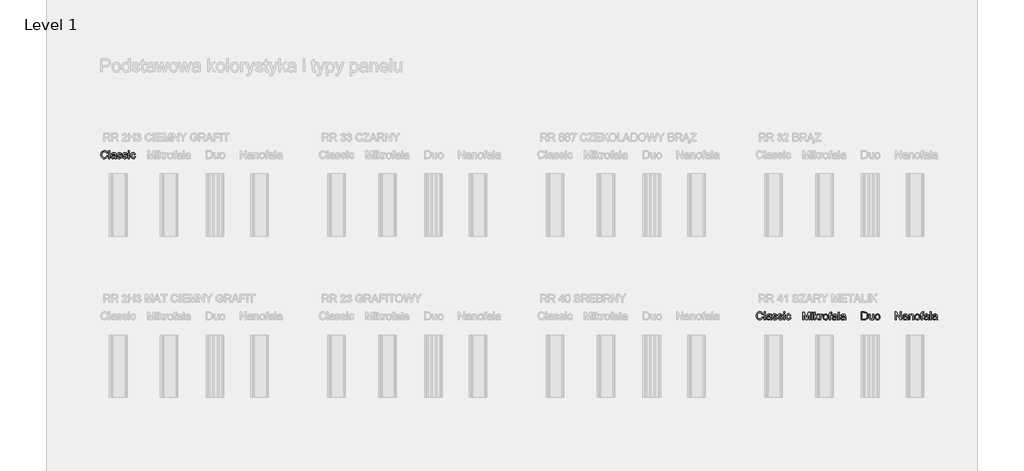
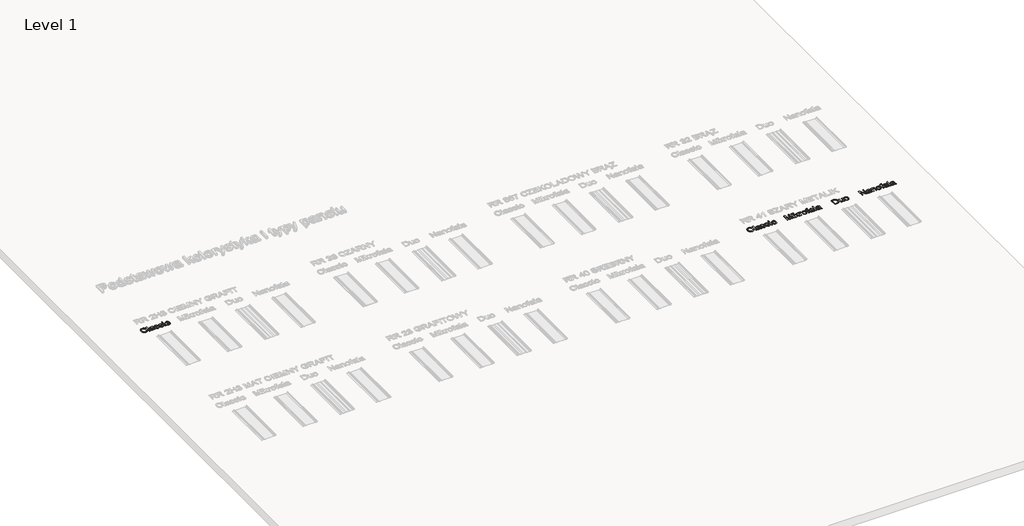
# One storey, part 18 of 24: 5 proxies.
"""IFC4 building model written with IfcOpenShell, lengths in millimetres."""

from ifc_helpers import new_model, si_unit, frame, origin, place, context, project, spatial, polyline, outline, extrude, element, save

model = new_model("IFC4")

# Units and contexts
model_context = context("Model", 3, world=origin())
ifc_project = project(units=[si_unit("LENGTHUNIT", "METRE", prefix="MILLI")], contexts=[model_context])

# Site, building, storey
site = spatial("IfcSite", under=ifc_project)
building = spatial("IfcBuilding", under=site)
storey = spatial("IfcBuildingStorey", under=building, Name="Level 1", Elevation=0.0)

# Proxies
placement = place(None, origin())
element("IfcBuildingElementProxy", 1, Name="150", ObjectType="150", at=placement, inside=storey, context=model_context, shape_type="SweptSolid", body=[
    extrude(outline(polyline([(-8679.0085992, 1182.8181359), (-8660.1730411, 1177.9620936), (-8668.8642532, 1156.013334), (-8682.5034782, 1139.9782776), (-8700.4193314, 1130.1696239), (-8721.9404281, 1126.9000726), (-8743.7880201, 1129.3740791), (-8761.1382547, 1136.7960983), (-8774.4371888, 1148.908613), (-8784.1308794, 1165.4541057), (-8790.049181, 1184.9058662), (-8792.0219482, 1205.7371842), (-8789.7916636, 1227.7089364), (-8783.1008098, 1246.6824503), (-8772.2988747, 1262.0553191), (-8757.7353462, 1273.2251362), (-8740.4632865, 1280.0263546), (-8721.5357579, 1282.2934274), (-8700.8837824, 1279.3595685), (-8683.8094593, 1270.5579918), (-8670.8462175, 1256.4313231), (-8662.5274859, 1237.5221886), (-8681.363044, 1233.0340282), (-8687.8929494, 1246.7698222), (-8696.8140878, 1256.1921998), (-8708.2368238, 1261.6414519), (-8722.2715219, 1263.4578692), (-8738.4491326, 1261.4437153), (-8751.7388697, 1255.4012536), (-8761.8234349, 1245.9650804), (-8768.38553, 1233.7697922), (-8773.18639, 1205.7739724), (-8771.7654458, 1188.373154), (-8767.5026132, 1173.3267804), (-8760.2369438, 1161.2096672), (-8749.8074892, 1152.59663), (-8737.3040999, 1147.4508806), (-8723.8166263, 1145.7356308), (-8708.0942695, 1148.0716815), (-8694.9930719, 1155.0798335), (-8685.1016448, 1166.6865104), (-8679.0085992, 1182.8181359)])), frame((0.0, 0.0, 600.0), z_axis=(0.0, 0.0, 1.0), x_axis=(1.0, 0.0, 0.0)), (0.0, 0.0, 1.0), 10.0),
    extrude(outline(polyline([(-8636.6285934, 1129.2545174), (-8636.6285934, 1279.9389826), (-8617.7930352, 1279.9389826), (-8617.7930352, 1129.2545174), (-8636.6285934, 1129.2545174)])), frame((0.0, 0.0, 600.0), z_axis=(0.0, 0.0, 1.0), x_axis=(1.0, 0.0, 0.0)), (0.0, 0.0, 1.0), 10.0),
    extrude(outline(polyline([(-8518.9063549, 1143.381186), (-8537.171696, 1130.6156808), (-8557.3500234, 1126.9000726), (-8573.0907743, 1129.1349558), (-8584.7020498, 1135.8396051), (-8591.8619531, 1146.0207393), (-8594.2485875, 1158.685077), (-8590.643344, 1173.5842978), (-8581.1703826, 1184.4000285), (-8567.9818131, 1190.580446), (-8551.6846407, 1193.4131374), (-8519.0167195, 1199.8878605), (-8518.9063549, 1204.0817152), (-8520.203139, 1212.4878188), (-8524.0934911, 1217.9876546), (-8532.7939003, 1222.0711448), (-8544.915612, 1223.4323082), (-8563.9718993, 1219.8086705), (-8573.0585846, 1206.9511948), (-8591.8941428, 1209.3056396), (-8583.7455566, 1227.6997393), (-8567.3380196, 1238.4786818), (-8542.4875908, 1242.2678663), (-8519.660513, 1238.9201402), (-8506.7662491, 1230.5140366), (-8500.9905018, 1217.7301372), (-8500.0707968, 1201.2490239), (-8500.0707968, 1177.8149408), (-8499.1143036, 1145.0918373), (-8495.3619072, 1129.2545174), (-8514.1974654, 1129.2545174), (-8518.9063549, 1143.381186)]), holes=[polyline([(-8518.9063549, 1181.0523023), (-8549.2934077, 1175.276555), (-8565.4986096, 1172.2231344), (-8572.8378554, 1167.2567275), (-8575.4130294, 1160.0094522), (-8569.802829, 1149.8191209), (-8553.3401097, 1145.7356308), (-8534.2838223, 1150.2421852), (-8521.9965637, 1161.1498864), (-8519.0167195, 1175.7180134), (-8518.9063549, 1181.0523023)])]), frame((0.0, 0.0, 600.0), z_axis=(0.0, 0.0, 1.0), x_axis=(1.0, 0.0, 0.0)), (0.0, 0.0, 1.0), 10.0),
    extrude(outline(polyline([(-8481.2352386, 1162.2167442), (-8462.3996805, 1164.5711889), (-8459.4290334, 1156.5145732), (-8453.6808772, 1150.5916731), (-8433.7048849, 1145.7356308), (-8414.5014447, 1150.1870029), (-8408.2474508, 1160.6348516), (-8409.8201463, 1165.4357116), (-8414.5382329, 1169.0961375), (-8433.9256141, 1174.4672146), (-8462.2893159, 1183.6826586), (-8474.668545, 1194.4432069), (-8478.8807939, 1209.6367334), (-8475.4962795, 1223.6714315), (-8466.2624414, 1234.3951916), (-8454.2878825, 1239.9686039), (-8438.0826806, 1242.2678663), (-8415.1636323, 1238.5706523), (-8400.5955053, 1228.564262), (-8394.1207822, 1211.6600843), (-8412.9563403, 1209.3056396), (-8420.0380687, 1219.6983059), (-8436.6111526, 1223.4323082), (-8454.6373704, 1219.8638528), (-8460.0452357, 1211.5497197), (-8457.8011555, 1206.068278), (-8450.7746094, 1201.9112115), (-8434.5510134, 1197.9012977), (-8406.9046815, 1189.0353416), (-8394.0655999, 1178.9921632), (-8389.4118926, 1162.6214144), (-8394.8749403, 1144.5951966), (-8410.6386838, 1131.5169917), (-8433.9624023, 1126.9000726), (-8452.9543103, 1129.1257587), (-8466.8142644, 1135.8028169), (-8476.0664966, 1146.8576709), (-8481.2352386, 1162.2167442)])), frame((0.0, 0.0, 600.0), z_axis=(0.0, 0.0, 1.0), x_axis=(1.0, 0.0, 0.0)), (0.0, 0.0, 1.0), 10.0),
    extrude(outline(polyline([(-8375.285224, 1162.2167442), (-8356.4496659, 1164.5711889), (-8353.4790188, 1156.5145732), (-8347.7308626, 1150.5916731), (-8327.7548702, 1145.7356308), (-8308.5514301, 1150.1870029), (-8302.2974362, 1160.6348516), (-8303.8701317, 1165.4357116), (-8308.5882183, 1169.0961375), (-8327.9755994, 1174.4672146), (-8356.3393013, 1183.6826586), (-8368.7185304, 1194.4432069), (-8372.9307793, 1209.6367334), (-8369.5462649, 1223.6714315), (-8360.3124268, 1234.3951916), (-8348.3378679, 1239.9686039), (-8332.132666, 1242.2678663), (-8309.2136177, 1238.5706523), (-8294.6454907, 1228.564262), (-8288.1707676, 1211.6600843), (-8307.0063257, 1209.3056396), (-8314.0880541, 1219.6983059), (-8330.661138, 1223.4323082), (-8348.6873558, 1219.8638528), (-8354.0952211, 1211.5497197), (-8351.8511409, 1206.068278), (-8344.8245948, 1201.9112115), (-8328.6009988, 1197.9012977), (-8300.9546669, 1189.0353416), (-8288.1155853, 1178.9921632), (-8283.461878, 1162.6214144), (-8288.9249257, 1144.5951966), (-8304.6886691, 1131.5169917), (-8328.0123876, 1126.9000726), (-8347.0042956, 1129.1257587), (-8360.8642498, 1135.8028169), (-8370.116482, 1146.8576709), (-8375.285224, 1162.2167442)])), frame((0.0, 0.0, 600.0), z_axis=(0.0, 0.0, 1.0), x_axis=(1.0, 0.0, 0.0)), (0.0, 0.0, 1.0), 10.0),
    extrude(outline(polyline([(-8262.2718751, 1261.1034245), (-8262.2718751, 1279.9389826), (-8243.4363169, 1279.9389826), (-8243.4363169, 1261.1034245), (-8262.2718751, 1261.1034245)])), frame((0.0, 0.0, 600.0), z_axis=(0.0, 0.0, 1.0), x_axis=(1.0, 0.0, 0.0)), (0.0, 0.0, 1.0), 10.0),
    extrude(outline(polyline([(-8262.2718751, 1129.2545174), (-8262.2718751, 1239.9134216), (-8243.4363169, 1239.9134216), (-8243.4363169, 1129.2545174), (-8262.2718751, 1129.2545174)])), frame((0.0, 0.0, 600.0), z_axis=(0.0, 0.0, 1.0), x_axis=(1.0, 0.0, 0.0)), (0.0, 0.0, 1.0), 10.0),
    extrude(outline(polyline([(-8144.5496366, 1169.2800785), (-8125.7140785, 1166.9256337), (-8130.965594, 1150.1732074), (-8140.8340285, 1137.5134682), (-8154.39048, 1129.5534215), (-8170.7060465, 1126.9000726), (-8190.7418197, 1130.6018852), (-8206.4089941, 1141.7073229), (-8216.5211505, 1159.7289422), (-8219.8918693, 1184.1792993), (-8218.452531, 1200.9409227), (-8214.134516, 1215.467663), (-8206.8688466, 1227.1985001), (-8196.5865449, 1235.572414), (-8184.2854906, 1240.5940032), (-8170.9635639, 1242.2678663), (-8155.0480691, 1239.9686039), (-8142.3239506, 1233.0708164), (-8133.1958786, 1221.9423861), (-8128.0685233, 1206.9511948), (-8146.9040814, 1204.59675), (-8155.6412788, 1218.7050245), (-8170.8164111, 1223.4323082), (-8182.9887066, 1221.1054546), (-8192.6502075, 1214.1248937), (-8198.9547852, 1202.1135465), (-8201.0563111, 1184.6943341), (-8199.0007705, 1167.0405968), (-8192.8341485, 1154.987863), (-8183.3473916, 1148.0486888), (-8171.3314459, 1145.7356308), (-8161.5779745, 1147.1795676), (-8153.5811396, 1151.5113781), (-8147.7640056, 1158.8414269), (-8144.5496366, 1169.2800785)])), frame((0.0, 0.0, 600.0), z_axis=(0.0, 0.0, 1.0), x_axis=(1.0, 0.0, 0.0)), (0.0, 0.0, 1.0), 10.0),
])
element("IfcBuildingElementProxy", 2, Name="150", ObjectType="150", at=placement, inside=storey, context=model_context, shape_type="SweptSolid", body=[
    extrude(outline(polyline([(3920.9914008, -1917.1818641), (3939.8269589, -1922.0379064), (3931.1357468, -1943.986666), (3917.4965218, -1960.0217224), (3899.5806686, -1969.8303761), (3878.0595719, -1973.0999274), (3856.2119799, -1970.6259209), (3838.8617453, -1963.2039017), (3825.5628112, -1951.091387), (3815.8691206, -1934.5458943), (3809.950819, -1915.0941338), (3807.9780518, -1894.2628158), (3810.2083364, -1872.2910636), (3816.8991902, -1853.3175497), (3827.7011253, -1837.9446809), (3842.2646538, -1826.7748638), (3859.5367135, -1819.9736454), (3878.4642421, -1817.7065726), (3899.1162176, -1820.6404315), (3916.1905407, -1829.4420082), (3929.1537825, -1843.5686769), (3937.4725141, -1862.4778114), (3918.636956, -1866.9659718), (3912.1070506, -1853.2301778), (3903.1859122, -1843.8078002), (3891.7631762, -1838.3585481), (3877.7284781, -1836.5421308), (3861.5508674, -1838.5562847), (3848.2611303, -1844.5987464), (3838.1765651, -1854.0349196), (3831.61447, -1866.2302078), (3826.81361, -1894.2260276), (3828.2345542, -1911.626846), (3832.4973868, -1926.6732196), (3839.7630562, -1938.7903328), (3850.1925108, -1947.40337), (3862.6959001, -1952.5491194), (3876.1833737, -1954.2643692), (3891.9057305, -1951.9283185), (3905.0069281, -1944.9201665), (3914.8983552, -1933.3134896), (3920.9914008, -1917.1818641)])), frame((0.0, 0.0, 600.0), z_axis=(0.0, 0.0, 1.0), x_axis=(1.0, 0.0, 0.0)), (0.0, 0.0, 1.0), 10.0),
    extrude(outline(polyline([(3963.3714066, -1970.7454826), (3963.3714066, -1820.0610174), (3982.2069648, -1820.0610174), (3982.2069648, -1970.7454826), (3963.3714066, -1970.7454826)])), frame((0.0, 0.0, 600.0), z_axis=(0.0, 0.0, 1.0), x_axis=(1.0, 0.0, 0.0)), (0.0, 0.0, 1.0), 10.0),
    extrude(outline(polyline([(4081.0936451, -1956.618814), (4062.828304, -1969.3843192), (4042.6499766, -1973.0999274), (4026.9092257, -1970.8650442), (4015.2979502, -1964.1603949), (4008.1380469, -1953.9792607), (4005.7514125, -1941.314923), (4009.356656, -1926.4157022), (4018.8296174, -1915.5999715), (4032.0181869, -1909.419554), (4048.3153593, -1906.5868626), (4080.9832805, -1900.1121395), (4081.0936451, -1895.9182848), (4079.796861, -1887.5121812), (4075.9065089, -1882.0123454), (4067.2060997, -1877.9288552), (4055.084388, -1876.5676918), (4036.0281007, -1880.1913295), (4026.9414154, -1893.0488052), (4008.1058572, -1890.6943604), (4016.2544434, -1872.3002607), (4032.6619804, -1861.5213182), (4057.5124092, -1857.7321337), (4080.339487, -1861.0798598), (4093.2337509, -1869.4859634), (4099.0094982, -1882.2698628), (4099.9292032, -1898.7509761), (4099.9292032, -1922.1850592), (4100.8856964, -1954.9081627), (4104.6380928, -1970.7454826), (4085.8025346, -1970.7454826), (4081.0936451, -1956.618814)]), holes=[polyline([(4081.0936451, -1918.9476977), (4050.7065923, -1924.723445), (4034.5013904, -1927.7768656), (4027.1621446, -1932.7432725), (4024.5869706, -1939.9905478), (4030.197171, -1950.1808791), (4046.6598903, -1954.2643692), (4065.7161777, -1949.7578148), (4078.0034363, -1938.8501136), (4080.9832805, -1924.2819866), (4081.0936451, -1918.9476977)])]), frame((0.0, 0.0, 600.0), z_axis=(0.0, 0.0, 1.0), x_axis=(1.0, 0.0, 0.0)), (0.0, 0.0, 1.0), 10.0),
    extrude(outline(polyline([(4118.7647614, -1937.7832558), (4137.6003195, -1935.4288111), (4140.5709666, -1943.4854268), (4146.3191228, -1949.4083269), (4166.2951151, -1954.2643692), (4185.4985553, -1949.8129971), (4191.7525492, -1939.3651484), (4190.1798537, -1934.5642884), (4185.4617671, -1930.9038625), (4166.0743859, -1925.5327854), (4137.7106841, -1916.3173414), (4125.331455, -1905.5567931), (4121.1192061, -1890.3632666), (4124.5037205, -1876.3285685), (4133.7375586, -1865.6048084), (4145.7121175, -1860.0313961), (4161.9173194, -1857.7321337), (4184.8363677, -1861.4293477), (4199.4044947, -1871.435738), (4205.8792178, -1888.3399157), (4187.0436597, -1890.6943604), (4179.9619313, -1880.3016941), (4163.3888474, -1876.5676918), (4145.3626296, -1880.1361472), (4139.9547643, -1888.4502803), (4142.1988445, -1893.931722), (4149.2253906, -1898.0887885), (4165.4489866, -1902.0987023), (4193.0953185, -1910.9646584), (4205.9344001, -1921.0078368), (4210.5881074, -1937.3785856), (4205.1250597, -1955.4048034), (4189.3613162, -1968.4830083), (4166.0375977, -1973.0999274), (4147.0456897, -1970.8742413), (4133.1857356, -1964.1971831), (4123.9335034, -1953.1423291), (4118.7647614, -1937.7832558)])), frame((0.0, 0.0, 600.0), z_axis=(0.0, 0.0, 1.0), x_axis=(1.0, 0.0, 0.0)), (0.0, 0.0, 1.0), 10.0),
    extrude(outline(polyline([(4224.714776, -1937.7832558), (4243.5503341, -1935.4288111), (4246.5209812, -1943.4854268), (4252.2691374, -1949.4083269), (4272.2451298, -1954.2643692), (4291.4485699, -1949.8129971), (4297.7025638, -1939.3651484), (4296.1298683, -1934.5642884), (4291.4117817, -1930.9038625), (4272.0244006, -1925.5327854), (4243.6606987, -1916.3173414), (4231.2814696, -1905.5567931), (4227.0692207, -1890.3632666), (4230.4537351, -1876.3285685), (4239.6875732, -1865.6048084), (4251.6621321, -1860.0313961), (4267.867334, -1857.7321337), (4290.7863823, -1861.4293477), (4305.3545093, -1871.435738), (4311.8292324, -1888.3399157), (4292.9936743, -1890.6943604), (4285.9119459, -1880.3016941), (4269.338862, -1876.5676918), (4251.3126442, -1880.1361472), (4245.9047789, -1888.4502803), (4248.1488591, -1893.931722), (4255.1754052, -1898.0887885), (4271.3990012, -1902.0987023), (4299.0453331, -1910.9646584), (4311.8844147, -1921.0078368), (4316.538122, -1937.3785856), (4311.0750743, -1955.4048034), (4295.3113309, -1968.4830083), (4271.9876124, -1973.0999274), (4252.9957044, -1970.8742413), (4239.1357502, -1964.1971831), (4229.883518, -1953.1423291), (4224.714776, -1937.7832558)])), frame((0.0, 0.0, 600.0), z_axis=(0.0, 0.0, 1.0), x_axis=(1.0, 0.0, 0.0)), (0.0, 0.0, 1.0), 10.0),
    extrude(outline(polyline([(4337.7281249, -1838.8965755), (4337.7281249, -1820.0610174), (4356.5636831, -1820.0610174), (4356.5636831, -1838.8965755), (4337.7281249, -1838.8965755)])), frame((0.0, 0.0, 600.0), z_axis=(0.0, 0.0, 1.0), x_axis=(1.0, 0.0, 0.0)), (0.0, 0.0, 1.0), 10.0),
    extrude(outline(polyline([(4337.7281249, -1970.7454826), (4337.7281249, -1860.0865784), (4356.5636831, -1860.0865784), (4356.5636831, -1970.7454826), (4337.7281249, -1970.7454826)])), frame((0.0, 0.0, 600.0), z_axis=(0.0, 0.0, 1.0), x_axis=(1.0, 0.0, 0.0)), (0.0, 0.0, 1.0), 10.0),
    extrude(outline(polyline([(4455.4503634, -1930.7199215), (4474.2859215, -1933.0743663), (4469.034406, -1949.8267926), (4459.1659715, -1962.4865318), (4445.60952, -1970.4465785), (4429.2939535, -1973.0999274), (4409.2581803, -1969.3981148), (4393.5910059, -1958.2926771), (4383.4788495, -1940.2710578), (4380.1081307, -1915.8207007), (4381.547469, -1899.0590773), (4385.865484, -1884.532337), (4393.1311534, -1872.8014999), (4403.4134551, -1864.427586), (4415.7145094, -1859.4059968), (4429.0364361, -1857.7321337), (4444.9519309, -1860.0313961), (4457.6760494, -1866.9291836), (4466.8041214, -1878.0576139), (4471.9314767, -1893.0488052), (4453.0959186, -1895.40325), (4444.3587212, -1881.2949755), (4429.1835889, -1876.5676918), (4417.0112934, -1878.8945454), (4407.3497925, -1885.8751063), (4401.0452148, -1897.8864535), (4398.9436889, -1915.3056659), (4400.9992295, -1932.9594032), (4407.1658515, -1945.012137), (4416.6526084, -1951.9513112), (4428.6685541, -1954.2643692), (4438.4220255, -1952.8204324), (4446.4188604, -1948.4886219), (4452.2359944, -1941.1585731), (4455.4503634, -1930.7199215)])), frame((0.0, 0.0, 600.0), z_axis=(0.0, 0.0, 1.0), x_axis=(1.0, 0.0, 0.0)), (0.0, 0.0, 1.0), 10.0),
])
element("IfcBuildingElementProxy", 3, Name="150", ObjectType="150", at=placement, inside=storey, context=model_context, shape_type="SweptSolid", body=[
    extrude(outline(polyline([(4704.3345041, -1975.281387), (4704.3345041, -1824.5969218), (4736.6345432, -1824.5969218), (4767.5366308, -1930.8044538), (4773.7906247, -1952.9877381), (4780.5228653, -1928.9650438), (4810.8363417, -1824.5969218), (4843.2467454, -1824.5969218), (4843.2467454, -1975.281387), (4824.4111873, -1975.281387), (4824.4111873, -1843.4324799), (4786.55613, -1975.281387), (4761.0619077, -1975.281387), (4723.1700622, -1843.4324799), (4723.1700622, -1975.281387), (4704.3345041, -1975.281387)])), frame((0.0, 0.0, 600.0), z_axis=(0.0, 0.0, 1.0), x_axis=(1.0, 0.0, 0.0)), (0.0, 0.0, 1.0), 10.0),
    extrude(outline(polyline([(4873.8545274, -1843.4324799), (4873.8545274, -1824.5969218), (4892.6900856, -1824.5969218), (4892.6900856, -1843.4324799), (4873.8545274, -1843.4324799)])), frame((0.0, 0.0, 600.0), z_axis=(0.0, 0.0, 1.0), x_axis=(1.0, 0.0, 0.0)), (0.0, 0.0, 1.0), 10.0),
    extrude(outline(polyline([(4873.8545274, -1975.281387), (4873.8545274, -1864.6224829), (4892.6900856, -1864.6224829), (4892.6900856, -1975.281387), (4873.8545274, -1975.281387)])), frame((0.0, 0.0, 600.0), z_axis=(0.0, 0.0, 1.0), x_axis=(1.0, 0.0, 0.0)), (0.0, 0.0, 1.0), 10.0),
    extrude(outline(polyline([(4920.9434228, -1975.281387), (4920.9434228, -1824.5969218), (4939.778981, -1824.5969218), (4939.778981, -1905.5677489), (4982.011834, -1864.6224829), (5008.0578793, -1864.6224829), (4965.2732032, -1906.0827837), (5010.412324, -1975.281387), (4988.4129807, -1975.281387), (4951.771934, -1919.1793827), (4939.778981, -1930.841242), (4939.778981, -1975.281387), (4920.9434228, -1975.281387)])), frame((0.0, 0.0, 600.0), z_axis=(0.0, 0.0, 1.0), x_axis=(1.0, 0.0, 0.0)), (0.0, 0.0, 1.0), 10.0),
    extrude(outline(polyline([(5026.8934374, -1975.281387), (5026.8934374, -1864.6224829), (5043.3745508, -1864.6224829), (5043.3745508, -1880.9932316), (5055.0731983, -1865.9100698), (5066.8454221, -1862.2680381), (5085.7545567, -1868.0805736), (5079.4637745, -1884.9663572), (5066.2200227, -1881.1035962), (5055.5698389, -1884.8192044), (5048.7824161, -1895.1199003), (5045.7289956, -1917.1192436), (5045.7289956, -1975.281387), (5026.8934374, -1975.281387)])), frame((0.0, 0.0, 600.0), z_axis=(0.0, 0.0, 1.0), x_axis=(1.0, 0.0, 0.0)), (0.0, 0.0, 1.0), 10.0),
    extrude(outline(polyline([(5092.817891, -1919.9519349), (5096.8921841, -1893.2712932), (5109.1150633, -1874.5185085), (5124.2166192, -1865.3306557), (5142.2980193, -1862.2680381), (5162.0854721, -1865.9974418), (5177.8906023, -1877.185653), (5188.251079, -1894.9497548), (5191.7045713, -1918.4068306), (5190.177861, -1937.4355268), (5185.5977301, -1951.9208803), (5178.097536, -1962.7688007), (5167.8106357, -1970.8851972), (5155.5923549, -1975.9481731), (5142.2980193, -1977.6358318), (5122.2714432, -1973.9202236), (5106.4847071, -1962.7733992), (5096.234595, -1944.6368168), (5092.817891, -1919.9519349)]), holes=[polyline([(5111.6534491, -1919.9151467), (5113.8331499, -1936.9618787), (5120.3722524, -1949.1065831), (5130.2130958, -1956.376851), (5142.2980193, -1958.8002736), (5154.3277606, -1956.3630554), (5164.1502098, -1949.0514008), (5170.6893123, -1936.745748), (5172.8690131, -1919.3265355), (5170.6755167, -1902.7764443), (5164.0950275, -1890.7972868), (5154.2587827, -1883.5270189), (5142.2980193, -1881.1035962), (5130.2130958, -1883.5178218), (5120.3722524, -1890.7604986), (5113.8331499, -1902.8776118), (5111.6534491, -1919.9151467)])]), frame((0.0, 0.0, 600.0), z_axis=(0.0, 0.0, 1.0), x_axis=(1.0, 0.0, 0.0)), (0.0, 0.0, 1.0), 10.0),
    extrude(outline(polyline([(5217.6034637, -1975.281387), (5217.6034637, -1883.458041), (5201.1223503, -1883.458041), (5201.1223503, -1864.6224829), (5217.6034637, -1864.6224829), (5217.6034637, -1853.4756584), (5219.5900265, -1837.7670972), (5229.2285348, -1826.5466964), (5248.2112457, -1822.242477), (5265.3913349, -1824.3026162), (5262.6322199, -1841.960952), (5251.7797011, -1841.0780352), (5239.9155067, -1844.2050321), (5236.4390219, -1855.8668914), (5236.4390219, -1864.6224829), (5257.6290248, -1864.6224829), (5257.6290248, -1883.458041), (5236.4390219, -1883.458041), (5236.4390219, -1975.281387), (5217.6034637, -1975.281387)])), frame((0.0, 0.0, 600.0), z_axis=(0.0, 0.0, 1.0), x_axis=(1.0, 0.0, 0.0)), (0.0, 0.0, 1.0), 10.0),
    extrude(outline(polyline([(5344.7434813, -1961.1547184), (5326.4781402, -1973.9202236), (5306.2998128, -1977.6358318), (5290.5590619, -1975.4009487), (5278.9477864, -1968.6962993), (5271.7878831, -1958.5151651), (5269.4012486, -1945.8508274), (5273.0064922, -1930.9516066), (5282.4794536, -1920.1358759), (5295.6680231, -1913.9554584), (5311.9651955, -1911.1227671), (5344.6331167, -1904.6480439), (5344.7434813, -1900.4541892), (5343.4466972, -1892.0480856), (5339.5563451, -1886.5482498), (5330.8559359, -1882.4647596), (5318.7342242, -1881.1035962), (5299.6779368, -1884.7272339), (5290.5912516, -1897.5847096), (5271.7556934, -1895.2302649), (5279.9042796, -1876.8361651), (5296.3118166, -1866.0572226), (5321.1622454, -1862.2680381), (5343.9893232, -1865.6157643), (5356.8835871, -1874.0218678), (5362.6593344, -1886.8057672), (5363.5790394, -1903.2868806), (5363.5790394, -1926.7209636), (5364.5355326, -1959.4440671), (5368.2879289, -1975.281387), (5349.4523708, -1975.281387), (5344.7434813, -1961.1547184)]), holes=[polyline([(5344.7434813, -1923.4836021), (5314.3564285, -1929.2593494), (5298.1512266, -1932.31277), (5290.8119808, -1937.2791769), (5288.2368068, -1944.5264522), (5293.8470072, -1954.7167835), (5310.3097265, -1958.8002736), (5329.3660139, -1954.2937192), (5341.6532725, -1943.386018), (5344.6331167, -1928.817891), (5344.7434813, -1923.4836021)])]), frame((0.0, 0.0, 600.0), z_axis=(0.0, 0.0, 1.0), x_axis=(1.0, 0.0, 0.0)), (0.0, 0.0, 1.0), 10.0),
    extrude(outline(polyline([(5389.4779319, -1975.281387), (5389.4779319, -1824.5969218), (5408.31349, -1824.5969218), (5408.31349, -1975.281387), (5389.4779319, -1975.281387)])), frame((0.0, 0.0, 600.0), z_axis=(0.0, 0.0, 1.0), x_axis=(1.0, 0.0, 0.0)), (0.0, 0.0, 1.0), 10.0),
    extrude(outline(polyline([(5507.2001703, -1961.1547184), (5488.9348293, -1973.9202236), (5468.7565018, -1977.6358318), (5453.015751, -1975.4009487), (5441.4044755, -1968.6962993), (5434.2445722, -1958.5151651), (5431.8579377, -1945.8508274), (5435.4631813, -1930.9516066), (5444.9361426, -1920.1358759), (5458.1247122, -1913.9554584), (5474.4218846, -1911.1227671), (5507.0898057, -1904.6480439), (5507.2001703, -1900.4541892), (5505.9033863, -1892.0480856), (5502.0130342, -1886.5482498), (5493.312625, -1882.4647596), (5481.1909133, -1881.1035962), (5462.1346259, -1884.7272339), (5453.0479406, -1897.5847096), (5434.2123825, -1895.2302649), (5442.3609687, -1876.8361651), (5458.7685057, -1866.0572226), (5483.6189344, -1862.2680381), (5506.4460122, -1865.6157643), (5519.3402762, -1874.0218678), (5525.1160235, -1886.8057672), (5526.0357285, -1903.2868806), (5526.0357285, -1926.7209636), (5526.9922217, -1959.4440671), (5530.744618, -1975.281387), (5511.9090599, -1975.281387), (5507.2001703, -1961.1547184)]), holes=[polyline([(5507.2001703, -1923.4836021), (5476.8131175, -1929.2593494), (5460.6079156, -1932.31277), (5453.2686698, -1937.2791769), (5450.6934959, -1944.5264522), (5456.3036963, -1954.7167835), (5472.7664156, -1958.8002736), (5491.8227029, -1954.2937192), (5504.1099616, -1943.386018), (5507.0898057, -1928.817891), (5507.2001703, -1923.4836021)])]), frame((0.0, 0.0, 600.0), z_axis=(0.0, 0.0, 1.0), x_axis=(1.0, 0.0, 0.0)), (0.0, 0.0, 1.0), 10.0),
])
element("IfcBuildingElementProxy", 4, Name="150", ObjectType="150", at=placement, inside=storey, context=model_context, shape_type="SweptSolid", body=[
    extrude(outline(polyline([(5832.4192925, -1972.1592468), (5832.4192925, -1821.4747816), (5884.4010184, -1821.4747816), (5911.2931923, -1823.6452853), (5933.4396884, -1834.4242278), (5943.8599459, -1845.902146), (5951.2819651, -1860.1759675), (5955.7241402, -1876.9697805), (5957.2048653, -1896.0076738), (5953.1949515, -1926.4131207), (5942.8942557, -1948.3572817), (5929.135469, -1962.0240978), (5911.1276454, -1969.5840728), (5886.902616, -1972.1592468), (5832.4192925, -1972.1592468)]), holes=[polyline([(5851.2548507, -1953.3236886), (5884.5849594, -1953.3236886), (5908.8283829, -1950.6013619), (5922.8078987, -1942.9126282), (5934.2674229, -1924.2058287), (5938.3693071, -1895.7133682), (5936.3597517, -1875.1855529), (5930.3310855, -1860.0288147), (5921.4237427, -1849.6177542), (5910.7781575, -1843.3269721), (5884.0699246, -1840.3103397), (5851.2548507, -1840.3103397), (5851.2548507, -1953.3236886)])]), frame((0.0, 0.0, 600.0), z_axis=(0.0, 0.0, 1.0), x_axis=(1.0, 0.0, 0.0)), (0.0, 0.0, 1.0), 10.0),
    extrude(outline(polyline([(6051.382656, -1972.1592468), (6051.382656, -1953.1397476), (6036.630588, -1969.1702056), (6017.3903597, -1974.5136916), (5999.6768416, -1970.7612952), (5987.4631594, -1961.3435161), (5981.8529589, -1947.4743649), (5980.749313, -1929.9631819), (5980.749313, -1861.5003426), (5999.5848711, -1861.5003426), (5999.5848711, -1921.0972259), (6000.7253053, -1940.300666), (6008.1749157, -1951.5762492), (6022.2096138, -1955.6781334), (6037.9365691, -1951.4842787), (6048.3292355, -1940.0615427), (6051.382656, -1919.0738749), (6051.382656, -1861.5003426), (6070.2182142, -1861.5003426), (6070.2182142, -1972.1592468), (6051.382656, -1972.1592468)])), frame((0.0, 0.0, 600.0), z_axis=(0.0, 0.0, 1.0), x_axis=(1.0, 0.0, 0.0)), (0.0, 0.0, 1.0), 10.0),
    extrude(outline(polyline([(6091.4082171, -1916.8297947), (6095.4825102, -1890.149153), (6107.7053895, -1871.3963683), (6122.8069454, -1862.2085155), (6140.8883455, -1859.1458979), (6160.6757983, -1862.8753016), (6176.4809285, -1874.0635128), (6186.8414052, -1891.8276146), (6190.2948974, -1915.2846903), (6188.7681871, -1934.3133865), (6184.1880563, -1948.7987401), (6176.6878621, -1959.6466604), (6166.4009618, -1967.7630569), (6154.1826811, -1972.8260329), (6140.8883455, -1974.5136916), (6120.8617693, -1970.7980834), (6105.0750332, -1959.651259), (6094.8249211, -1941.5146766), (6091.4082171, -1916.8297947)]), holes=[polyline([(6110.2437753, -1916.7930065), (6112.4234761, -1933.8397385), (6118.9625785, -1945.9844428), (6128.8034219, -1953.2547108), (6140.8883455, -1955.6781334), (6152.9180867, -1953.2409152), (6162.740536, -1945.9292605), (6169.2796384, -1933.6236078), (6171.4593393, -1916.2043953), (6169.2658429, -1899.6543041), (6162.6853537, -1887.6751466), (6152.8491088, -1880.4048787), (6140.8883455, -1877.981456), (6128.8034219, -1880.3956816), (6118.9625785, -1887.6383584), (6112.4234761, -1899.7554716), (6110.2437753, -1916.7930065)])]), frame((0.0, 0.0, 600.0), z_axis=(0.0, 0.0, 1.0), x_axis=(1.0, 0.0, 0.0)), (0.0, 0.0, 1.0), 10.0),
])
element("IfcBuildingElementProxy", 5, Name="150", ObjectType="150", at=placement, inside=storey, context=model_context, shape_type="SweptSolid", body=[
    extrude(outline(polyline([(6483.2193428, -1972.1592468), (6483.2193428, -1821.4747816), (6503.3792761, -1821.4747816), (6582.1060231, -1940.852489), (6582.1060231, -1821.4747816), (6600.9415812, -1821.4747816), (6600.9415812, -1972.1592468), (6580.7816479, -1972.1592468), (6502.0549009, -1852.7447512), (6502.0549009, -1972.1592468), (6483.2193428, -1972.1592468)])), frame((0.0, 0.0, 600.0), z_axis=(0.0, 0.0, 1.0), x_axis=(1.0, 0.0, 0.0)), (0.0, 0.0, 1.0), 10.0),
    extrude(outline(polyline([(6702.1827063, -1958.0325782), (6683.9173653, -1970.7980834), (6663.7390378, -1974.5136916), (6647.998287, -1972.2788084), (6636.3870115, -1965.5741591), (6629.2271081, -1955.3930249), (6626.8404737, -1942.7286872), (6630.4457173, -1927.8294664), (6639.9186786, -1917.0137357), (6653.1072482, -1910.8333182), (6669.4044205, -1908.0006268), (6702.0723417, -1901.5259037), (6702.1827063, -1897.332049), (6700.8859223, -1888.9259454), (6696.9955702, -1883.4261096), (6688.295161, -1879.3426194), (6676.1734493, -1877.981456), (6657.1171619, -1881.6050937), (6648.0304766, -1894.4625694), (6629.1949185, -1892.1081246), (6637.3435047, -1873.7140249), (6653.7510417, -1862.9350824), (6678.6014704, -1859.1458979), (6701.4285482, -1862.493624), (6714.3228122, -1870.8997276), (6720.0985595, -1883.683627), (6721.0182645, -1900.1647403), (6721.0182645, -1923.5988234), (6721.9747577, -1956.3219269), (6725.727154, -1972.1592468), (6706.8915959, -1972.1592468), (6702.1827063, -1958.0325782)]), holes=[polyline([(6702.1827063, -1920.3614619), (6671.7956535, -1926.1372092), (6655.5904516, -1929.1906298), (6648.2512058, -1934.1570367), (6645.6760319, -1941.404312), (6651.2862323, -1951.5946433), (6667.7489516, -1955.6781334), (6686.8052389, -1951.171579), (6699.0924976, -1940.2638778), (6702.0723417, -1925.6957508), (6702.1827063, -1920.3614619)])]), frame((0.0, 0.0, 600.0), z_axis=(0.0, 0.0, 1.0), x_axis=(1.0, 0.0, 0.0)), (0.0, 0.0, 1.0), 10.0),
    extrude(outline(polyline([(6746.9171569, -1972.1592468), (6746.9171569, -1861.5003426), (6765.7527151, -1861.5003426), (6765.7527151, -1876.9513864), (6780.1552952, -1863.59727), (6799.8185878, -1859.1458979), (6817.6056823, -1862.7327473), (6829.7457881, -1872.1505264), (6835.3927768, -1886.0012835), (6836.3860582, -1904.2114423), (6836.3860582, -1972.1592468), (6817.5505, -1972.1592468), (6817.5505, -1906.749828), (6815.3799962, -1890.0847737), (6807.7096566, -1881.2739999), (6794.7786045, -1877.981456), (6783.7467432, -1879.8300631), (6774.3427597, -1885.3758841), (6767.9002262, -1896.0904472), (6765.7527151, -1913.4452804), (6765.7527151, -1972.1592468), (6746.9171569, -1972.1592468)])), frame((0.0, 0.0, 600.0), z_axis=(0.0, 0.0, 1.0), x_axis=(1.0, 0.0, 0.0)), (0.0, 0.0, 1.0), 10.0),
    extrude(outline(polyline([(6857.5760611, -1916.8297947), (6861.6503542, -1890.149153), (6873.8732335, -1871.3963683), (6888.9747894, -1862.2085155), (6907.0561894, -1859.1458979), (6926.8436422, -1862.8753016), (6942.6487725, -1874.0635128), (6953.0092492, -1891.8276146), (6956.4627414, -1915.2846903), (6954.9360311, -1934.3133865), (6950.3559003, -1948.7987401), (6942.8557061, -1959.6466604), (6932.5688058, -1967.7630569), (6920.350525, -1972.8260329), (6907.0561894, -1974.5136916), (6887.0296133, -1970.7980834), (6871.2428772, -1959.651259), (6860.9927651, -1941.5146766), (6857.5760611, -1916.8297947)]), holes=[polyline([(6876.4116192, -1916.7930065), (6878.5913201, -1933.8397385), (6885.1304225, -1945.9844428), (6894.9712659, -1953.2547108), (6907.0561894, -1955.6781334), (6919.0859307, -1953.2409152), (6928.9083799, -1945.9292605), (6935.4474824, -1933.6236078), (6937.6271832, -1916.2043953), (6935.4336868, -1899.6543041), (6928.8531976, -1887.6751466), (6919.0169528, -1880.4048787), (6907.0561894, -1877.981456), (6894.9712659, -1880.3956816), (6885.1304225, -1887.6383584), (6878.5913201, -1899.7554716), (6876.4116192, -1916.7930065)])]), frame((0.0, 0.0, 600.0), z_axis=(0.0, 0.0, 1.0), x_axis=(1.0, 0.0, 0.0)), (0.0, 0.0, 1.0), 10.0),
    extrude(outline(polyline([(6982.3616338, -1972.1592468), (6982.3616338, -1880.3359008), (6965.8805205, -1880.3359008), (6965.8805205, -1861.5003426), (6982.3616338, -1861.5003426), (6982.3616338, -1850.3535182), (6984.3481966, -1834.644957), (6993.9867049, -1823.4245561), (7012.9694158, -1819.1203368), (7030.149505, -1821.180476), (7027.3903901, -1838.8388117), (7016.5378712, -1837.955895), (7004.6736769, -1841.0828919), (7001.197192, -1852.7447512), (7001.197192, -1861.5003426), (7022.3871949, -1861.5003426), (7022.3871949, -1880.3359008), (7001.197192, -1880.3359008), (7001.197192, -1972.1592468), (6982.3616338, -1972.1592468)])), frame((0.0, 0.0, 600.0), z_axis=(0.0, 0.0, 1.0), x_axis=(1.0, 0.0, 0.0)), (0.0, 0.0, 1.0), 10.0),
    extrude(outline(polyline([(7109.5016514, -1958.0325782), (7091.2363103, -1970.7980834), (7071.0579829, -1974.5136916), (7055.317232, -1972.2788084), (7043.7059565, -1965.5741591), (7036.5460532, -1955.3930249), (7034.1594188, -1942.7286872), (7037.7646623, -1927.8294664), (7047.2376237, -1917.0137357), (7060.4261932, -1910.8333182), (7076.7233656, -1908.0006268), (7109.3912868, -1901.5259037), (7109.5016514, -1897.332049), (7108.2048673, -1888.9259454), (7104.3145152, -1883.4261096), (7095.6141061, -1879.3426194), (7083.4923943, -1877.981456), (7064.436107, -1881.6050937), (7055.3494217, -1894.4625694), (7036.5138635, -1892.1081246), (7044.6624497, -1873.7140249), (7061.0699867, -1862.9350824), (7085.9204155, -1859.1458979), (7108.7474933, -1862.493624), (7121.6417572, -1870.8997276), (7127.4175045, -1883.683627), (7128.3372095, -1900.1647403), (7128.3372095, -1923.5988234), (7129.2937027, -1956.3219269), (7133.0460991, -1972.1592468), (7114.2105409, -1972.1592468), (7109.5016514, -1958.0325782)]), holes=[polyline([(7109.5016514, -1920.3614619), (7079.1145986, -1926.1372092), (7062.9093967, -1929.1906298), (7055.5701509, -1934.1570367), (7052.9949769, -1941.404312), (7058.6051773, -1951.5946433), (7075.0678966, -1955.6781334), (7094.124184, -1951.171579), (7106.4114426, -1940.2638778), (7109.3912868, -1925.6957508), (7109.5016514, -1920.3614619)])]), frame((0.0, 0.0, 600.0), z_axis=(0.0, 0.0, 1.0), x_axis=(1.0, 0.0, 0.0)), (0.0, 0.0, 1.0), 10.0),
    extrude(outline(polyline([(7154.236102, -1972.1592468), (7154.236102, -1821.4747816), (7173.0716601, -1821.4747816), (7173.0716601, -1972.1592468), (7154.236102, -1972.1592468)])), frame((0.0, 0.0, 600.0), z_axis=(0.0, 0.0, 1.0), x_axis=(1.0, 0.0, 0.0)), (0.0, 0.0, 1.0), 10.0),
    extrude(outline(polyline([(7271.9583404, -1958.0325782), (7253.6929994, -1970.7980834), (7233.514672, -1974.5136916), (7217.7739211, -1972.2788084), (7206.1626456, -1965.5741591), (7199.0027423, -1955.3930249), (7196.6161078, -1942.7286872), (7200.2213514, -1927.8294664), (7209.6943128, -1917.0137357), (7222.8828823, -1910.8333182), (7239.1800547, -1908.0006268), (7271.8479758, -1901.5259037), (7271.9583404, -1897.332049), (7270.6615564, -1888.9259454), (7266.7712043, -1883.4261096), (7258.0707951, -1879.3426194), (7245.9490834, -1877.981456), (7226.892796, -1881.6050937), (7217.8061108, -1894.4625694), (7198.9705526, -1892.1081246), (7207.1191388, -1873.7140249), (7223.5266758, -1862.9350824), (7248.3771046, -1859.1458979), (7271.2041824, -1862.493624), (7284.0984463, -1870.8997276), (7289.8741936, -1883.683627), (7290.7938986, -1900.1647403), (7290.7938986, -1923.5988234), (7291.7503918, -1956.3219269), (7295.5027881, -1972.1592468), (7276.66723, -1972.1592468), (7271.9583404, -1958.0325782)]), holes=[polyline([(7271.9583404, -1920.3614619), (7241.5712876, -1926.1372092), (7225.3660858, -1929.1906298), (7218.02684, -1934.1570367), (7215.451666, -1941.404312), (7221.0618664, -1951.5946433), (7237.5245857, -1955.6781334), (7256.580873, -1951.171579), (7268.8681317, -1940.2638778), (7271.8479758, -1925.6957508), (7271.9583404, -1920.3614619)])]), frame((0.0, 0.0, 600.0), z_axis=(0.0, 0.0, 1.0), x_axis=(1.0, 0.0, 0.0)), (0.0, 0.0, 1.0), 10.0),
])

save(model, "model.ifc")
